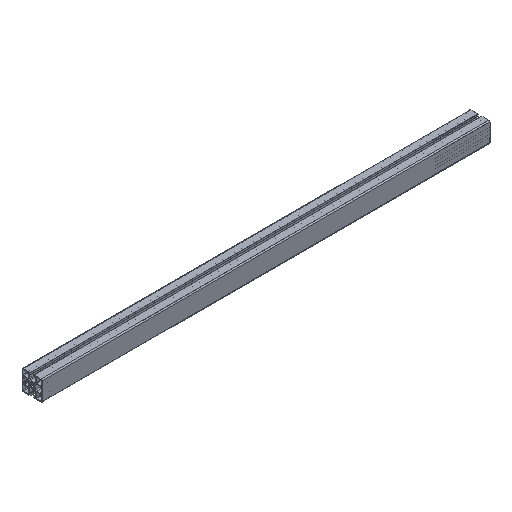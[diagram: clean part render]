
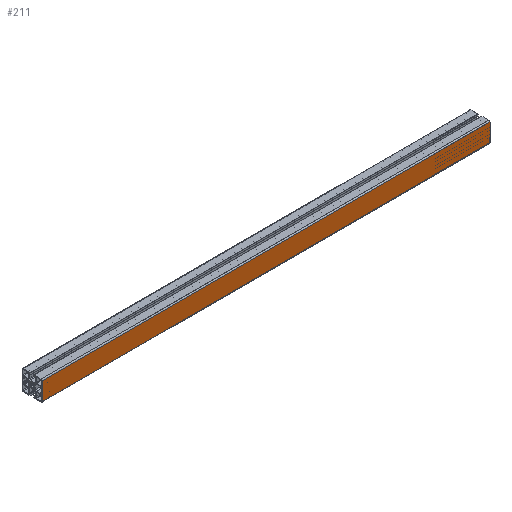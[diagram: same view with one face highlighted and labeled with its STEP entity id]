
A CAD part, isometric view. The second image highlights one B-rep face of the part: STEP entity #211.
In plain terms, the highlighted planar face has unit normal (0, -1, 0).
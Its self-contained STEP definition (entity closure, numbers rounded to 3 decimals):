
#211 = ADVANCED_FACE ( 'NONE', ( #4594 ), #5674, .F. ) ;
#526 = VERTEX_POINT ( 'NONE', #3769 ) ;
#687 = CARTESIAN_POINT ( 'NONE',  ( 1000., -22.5, -20. ) ) ;
#803 = AXIS2_PLACEMENT_3D ( 'NONE', #6767, #6236, #5191 ) ;
#833 = ORIENTED_EDGE ( 'NONE', *, *, #4250, .F. ) ;
#929 = DIRECTION ( 'NONE',  ( 0., 0., -1. ) ) ;
#994 = VERTEX_POINT ( 'NONE', #4143 ) ;
#1096 = ORIENTED_EDGE ( 'NONE', *, *, #5064, .T. ) ;
#1802 = EDGE_CURVE ( 'NONE', #4701, #526, #5899, .T. ) ;
#1848 = EDGE_CURVE ( 'NONE', #5706, #994, #6970, .T. ) ;
#1884 = VECTOR ( 'NONE', #929, 1000. ) ;
#2147 = DIRECTION ( 'NONE',  ( -1., 0., 0. ) ) ;
#2175 = CARTESIAN_POINT ( 'NONE',  ( 1000., -22.5, -20. ) ) ;
#2191 = ORIENTED_EDGE ( 'NONE', *, *, #1848, .F. ) ;
#2427 = VECTOR ( 'NONE', #2147, 1000. ) ;
#2723 = CARTESIAN_POINT ( 'NONE',  ( 1000., -22.5, 20. ) ) ;
#3104 = LINE ( 'NONE', #5756, #1884 ) ;
#3657 = ORIENTED_EDGE ( 'NONE', *, *, #1802, .T. ) ;
#3703 = CARTESIAN_POINT ( 'NONE',  ( 1000., -22.5, 20. ) ) ;
#3755 = EDGE_LOOP ( 'NONE', ( #1096, #2191, #833, #3657 ) ) ;
#3769 = CARTESIAN_POINT ( 'NONE',  ( 0., -22.5, 20. ) ) ;
#4143 = CARTESIAN_POINT ( 'NONE',  ( 0., -22.5, -20. ) ) ;
#4250 = EDGE_CURVE ( 'NONE', #4701, #5706, #3104, .T. ) ;
#4564 = VECTOR ( 'NONE', #5908, 1000. ) ;
#4594 = FACE_OUTER_BOUND ( 'NONE', #3755, .T. ) ;
#4701 = VERTEX_POINT ( 'NONE', #2723 ) ;
#4963 = CARTESIAN_POINT ( 'NONE',  ( 0., -22.5, 20. ) ) ;
#5010 = VECTOR ( 'NONE', #6894, 1000. ) ;
#5064 = EDGE_CURVE ( 'NONE', #526, #994, #6054, .T. ) ;
#5191 = DIRECTION ( 'NONE',  ( 0., 0., 1. ) ) ;
#5674 = PLANE ( 'NONE',  #803 ) ;
#5706 = VERTEX_POINT ( 'NONE', #687 ) ;
#5756 = CARTESIAN_POINT ( 'NONE',  ( 1000., -22.5, 20. ) ) ;
#5899 = LINE ( 'NONE', #3703, #5010 ) ;
#5908 = DIRECTION ( 'NONE',  ( 0., 0., -1. ) ) ;
#6054 = LINE ( 'NONE', #4963, #4564 ) ;
#6236 = DIRECTION ( 'NONE',  ( 0., 1., 0. ) ) ;
#6767 = CARTESIAN_POINT ( 'NONE',  ( 1000., -22.5, 20. ) ) ;
#6894 = DIRECTION ( 'NONE',  ( -1., 0., 0. ) ) ;
#6970 = LINE ( 'NONE', #2175, #2427 ) ;
